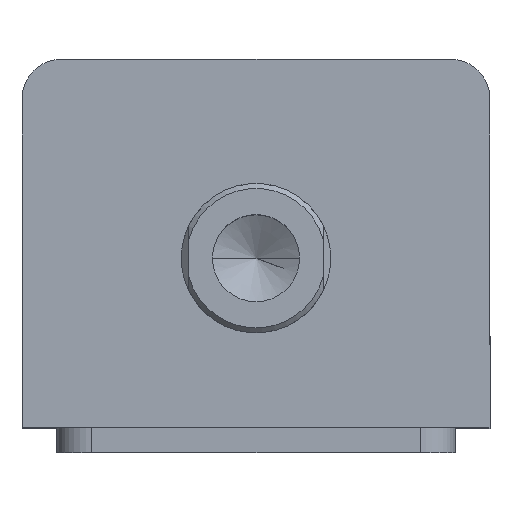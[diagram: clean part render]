
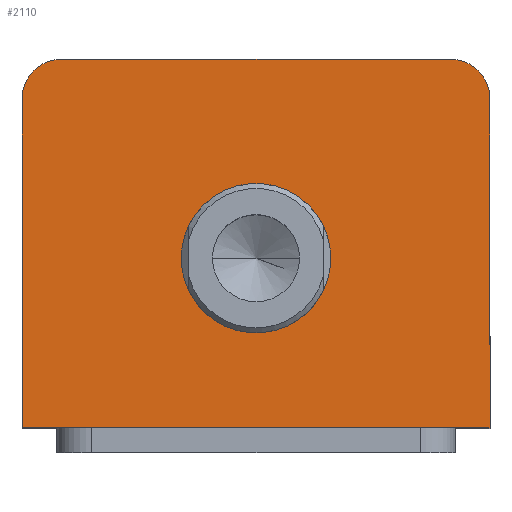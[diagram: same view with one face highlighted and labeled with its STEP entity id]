
A CAD part, top view. The second image highlights one B-rep face of the part: STEP entity #2110.
In plain terms, the highlighted planar face has unit normal (0, 0, 1).
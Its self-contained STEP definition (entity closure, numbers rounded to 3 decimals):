
#30 = CARTESIAN_POINT ( 'NONE',  ( -47., 37., 145. ) ) ;
#35 = DIRECTION ( 'NONE',  ( 0., -1., 0. ) ) ;
#43 = DIRECTION ( 'NONE',  ( 0., 0., 1. ) ) ;
#87 = DIRECTION ( 'NONE',  ( 1., 0., 0. ) ) ;
#165 = CARTESIAN_POINT ( 'NONE',  ( 0., -3., 145. ) ) ;
#196 = DIRECTION ( 'NONE',  ( 1., 0., 0. ) ) ;
#204 = EDGE_CURVE ( 'NONE', #1872, #1809, #2244, .T. ) ;
#213 = EDGE_CURVE ( 'NONE', #2893, #2869, #2225, .T. ) ;
#292 = EDGE_CURVE ( 'NONE', #2869, #2893, #1750, .T. ) ;
#369 = AXIS2_PLACEMENT_3D ( 'NONE', #165, #43, #87 ) ;
#406 = AXIS2_PLACEMENT_3D ( 'NONE', #2720, #2718, #2716 ) ;
#444 = AXIS2_PLACEMENT_3D ( 'NONE', #2968, #2941, #2961 ) ;
#550 = LINE ( 'NONE', #3003, #553 ) ;
#553 = VECTOR ( 'NONE', #2944, 1000. ) ;
#555 = LINE ( 'NONE', #2996, #558 ) ;
#558 = VECTOR ( 'NONE', #2994, 1000. ) ;
#580 = CIRCLE ( 'NONE', #444, 8. ) ;
#594 = CIRCLE ( 'NONE', #1558, 8. ) ;
#602 = LINE ( 'NONE', #1754, #605 ) ;
#605 = VECTOR ( 'NONE', #196, 1000. ) ;
#721 = FACE_BOUND ( 'NONE', #2787, .T. ) ;
#724 = FACE_OUTER_BOUND ( 'NONE', #1999, .T. ) ;
#959 = EDGE_CURVE ( 'NONE', #1800, #1830, #550, .T. ) ;
#962 = EDGE_CURVE ( 'NONE', #2839, #1860, #555, .T. ) ;
#979 = EDGE_CURVE ( 'NONE', #1860, #1800, #580, .T. ) ;
#989 = EDGE_CURVE ( 'NONE', #1830, #1872, #594, .T. ) ;
#995 = EDGE_CURVE ( 'NONE', #1809, #2839, #602, .T. ) ;
#1019 = CARTESIAN_POINT ( 'NONE',  ( 39., 37., 145. ) ) ;
#1028 = CARTESIAN_POINT ( 'NONE',  ( -47., -37., 145. ) ) ;
#1048 = CARTESIAN_POINT ( 'NONE',  ( -39., 37., 145. ) ) ;
#1078 = CARTESIAN_POINT ( 'NONE',  ( 47., 29., 145. ) ) ;
#1088 = CARTESIAN_POINT ( 'NONE',  ( -47., 29., 145. ) ) ;
#1333 = CARTESIAN_POINT ( 'NONE',  ( 0., 0., 145. ) ) ;
#1339 = PLANE ( 'NONE',  #1630 ) ;
#1341 = DIRECTION ( 'NONE',  ( 0., 0., 1. ) ) ;
#1342 = DIRECTION ( 'NONE',  ( 1., 0., 0. ) ) ;
#1403 = CARTESIAN_POINT ( 'NONE',  ( 47., -37., 145. ) ) ;
#1419 = CARTESIAN_POINT ( 'NONE',  ( -15., -3., 145. ) ) ;
#1422 = CARTESIAN_POINT ( 'NONE',  ( 15., -3., 145. ) ) ;
#1558 = AXIS2_PLACEMENT_3D ( 'NONE', #1870, #1867, #1822 ) ;
#1630 = AXIS2_PLACEMENT_3D ( 'NONE', #1333, #1341, #1342 ) ;
#1750 = CIRCLE ( 'NONE', #406, 15. ) ;
#1754 = CARTESIAN_POINT ( 'NONE',  ( -47., -37., 145. ) ) ;
#1800 = VERTEX_POINT ( 'NONE', #1019 ) ;
#1809 = VERTEX_POINT ( 'NONE', #1028 ) ;
#1822 = DIRECTION ( 'NONE',  ( 1., 0., 0. ) ) ;
#1830 = VERTEX_POINT ( 'NONE', #1048 ) ;
#1860 = VERTEX_POINT ( 'NONE', #1078 ) ;
#1867 = DIRECTION ( 'NONE',  ( 0., 0., 1. ) ) ;
#1870 = CARTESIAN_POINT ( 'NONE',  ( -39., 29., 145. ) ) ;
#1872 = VERTEX_POINT ( 'NONE', #1088 ) ;
#1999 = EDGE_LOOP ( 'NONE', ( #2866, #2897, #2892, #2867, #2851, #2888 ) ) ;
#2110 = ADVANCED_FACE ( 'NONE', ( #721, #724 ), #1339, .T. ) ;
#2225 = CIRCLE ( 'NONE', #369, 15. ) ;
#2241 = VECTOR ( 'NONE', #35, 1000. ) ;
#2244 = LINE ( 'NONE', #30, #2241 ) ;
#2716 = DIRECTION ( 'NONE',  ( 1., 0., 0. ) ) ;
#2718 = DIRECTION ( 'NONE',  ( 0., 0., 1. ) ) ;
#2720 = CARTESIAN_POINT ( 'NONE',  ( 0., -3., 145. ) ) ;
#2787 = EDGE_LOOP ( 'NONE', ( #2857, #2878 ) ) ;
#2839 = VERTEX_POINT ( 'NONE', #1403 ) ;
#2851 = ORIENTED_EDGE ( 'NONE', *, *, #962, .T. ) ;
#2857 = ORIENTED_EDGE ( 'NONE', *, *, #213, .F. ) ;
#2866 = ORIENTED_EDGE ( 'NONE', *, *, #959, .T. ) ;
#2867 = ORIENTED_EDGE ( 'NONE', *, *, #995, .T. ) ;
#2869 = VERTEX_POINT ( 'NONE', #1419 ) ;
#2878 = ORIENTED_EDGE ( 'NONE', *, *, #292, .F. ) ;
#2888 = ORIENTED_EDGE ( 'NONE', *, *, #979, .T. ) ;
#2892 = ORIENTED_EDGE ( 'NONE', *, *, #204, .T. ) ;
#2893 = VERTEX_POINT ( 'NONE', #1422 ) ;
#2897 = ORIENTED_EDGE ( 'NONE', *, *, #989, .T. ) ;
#2941 = DIRECTION ( 'NONE',  ( 0., 0., 1. ) ) ;
#2944 = DIRECTION ( 'NONE',  ( -1., 0., 0. ) ) ;
#2961 = DIRECTION ( 'NONE',  ( 1., 0., 0. ) ) ;
#2968 = CARTESIAN_POINT ( 'NONE',  ( 39., 29., 145. ) ) ;
#2994 = DIRECTION ( 'NONE',  ( 0., 1., 0. ) ) ;
#2996 = CARTESIAN_POINT ( 'NONE',  ( 47., 37., 145. ) ) ;
#3003 = CARTESIAN_POINT ( 'NONE',  ( -47., 37., 145. ) ) ;
